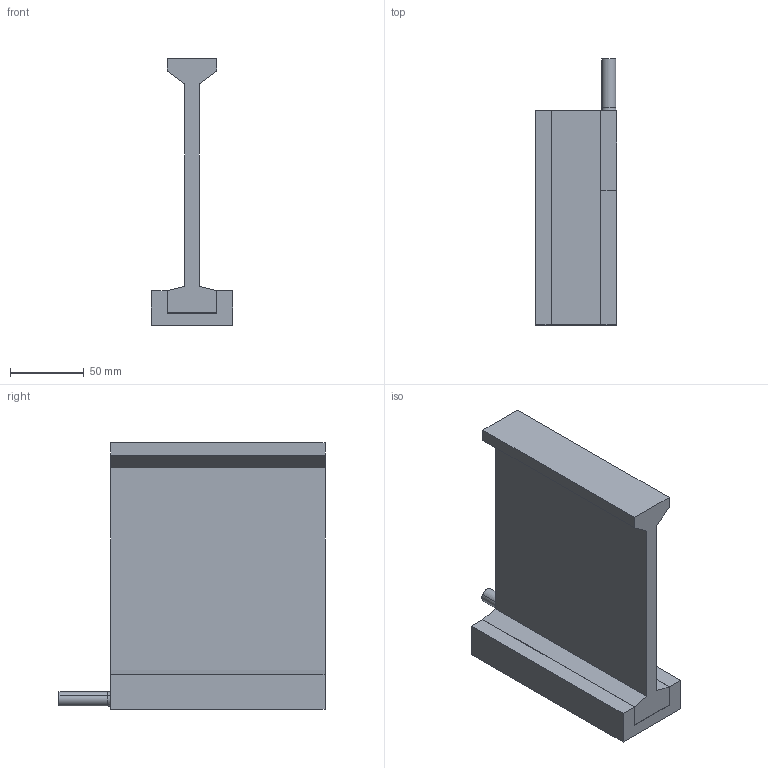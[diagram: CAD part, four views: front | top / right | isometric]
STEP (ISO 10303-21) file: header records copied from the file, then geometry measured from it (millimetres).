
FILE_DESCRIPTION (( 'STEP AP214' ), '1' );
FILE_NAME ('DX140F-C2-NH.STEP', '2021-07-16T04:15:13', ( '' ), ( '' ), 'SwSTEP 2.0', 'SolidWorks 2020', '' );
FILE_SCHEMA (( 'AUTOMOTIVE_DESIGN' ));
Length unit declared in the file: millimetre
Products named in the file (6): DX140F-C2-NH; HEX SHCS M3x0.5x12(S.S)_B18.3.1M - 3 x 0.5 x 12 Hex SHCS -- 12CHX; TIM-PC 8850FT-LV (DX140F)_C2; DX140FCX01_C2 (CUSTOMER); DX140FNH01; CBL_PWR_D10
Assembly tree (6 placements, depth 2):
  DX140F-C2-NH
    TIM-PC 8850FT-LV (DX140F)_C2
    DX140FCX01_C2 (CUSTOMER)
    DX140FNH01
    HEX SHCS M3x0.5x12(S.S)_B18.3.1M - 3 x 0.5 x 12 Hex SHCS -- 12CHX  x2
    CBL_PWR_D10
Bounding box: 55 x 180 x 180.6 mm (x, y, z)
Volume: 451211.2 mm3; surface area: 103850.2 mm2
Topology: 6 solids, 6 shells, 146 faces, 337 edges, 200 vertices
Faces by surface type: plane 76, cylinder 38, cone 26, torus 6
Entity records: 3651 total; most frequent: DIRECTION 603, CARTESIAN_POINT 558, ORIENTED_EDGE 526, EDGE_CURVE 263, AXIS2_PLACEMENT_3D 212, LINE 179, VECTOR 179, VERTEX_POINT 167
